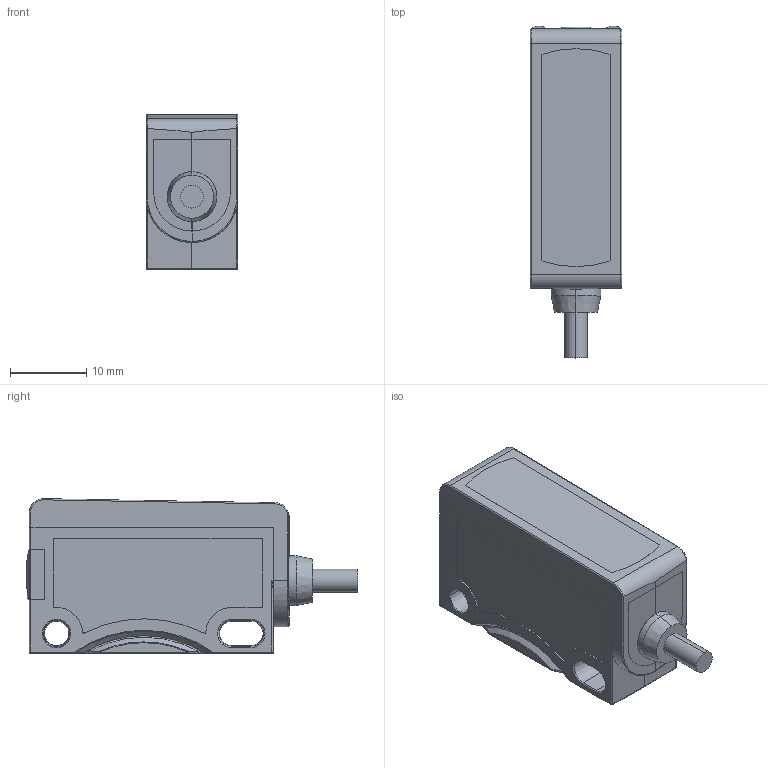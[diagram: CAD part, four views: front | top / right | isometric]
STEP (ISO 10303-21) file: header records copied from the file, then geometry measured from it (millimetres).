
FILE_DESCRIPTION((''),'2;1');
FILE_NAME('42JT-CABLE-AND-MICRO-QD_ASM','2011-08-16T',('rssantos'),('Rockwell Automation'),'PRO/ENGINEER BY PARAMETRIC TECHNOLOGY CORPORATION, 2010140','PRO/ENGINEER BY PARAMETRIC TECHNOLOGY CORPORATION, 2010140','');
FILE_SCHEMA(('CONFIG_CONTROL_DESIGN'));
Length unit declared in the file: millimetre
Products named in the file (7): MSBR-6; MSBR-5; MSBR-4; MSBR-3; MSBR-2; MSBR-1; 42JT-CABLE-AND-MICRO-QD_ASM
Assembly tree (6 placements, depth 2):
  42JT-CABLE-AND-MICRO-QD_ASM
    MSBR-6
    MSBR-5
    MSBR-4
    MSBR-3
    MSBR-2
    MSBR-1
Bounding box: 12 x 43.4 x 20.22 mm (x, y, z)
Volume: 3488.5 mm3; surface area: 6528.2 mm2
Topology: 6 solids, 6 shells, 487 faces, 1442 edges, 954 vertices
Faces by surface type: plane 290, cylinder 114, cone 27, torus 26, bspline 16, sphere 12, revolution 2
Entity records: 18100 total; most frequent: CARTESIAN_POINT 5009, ORIENTED_EDGE 2860, DIRECTION 2563, EDGE_CURVE 1430, VERTEX_POINT 954, VECTOR 859, LINE 859, AXIS2_PLACEMENT_3D 851
